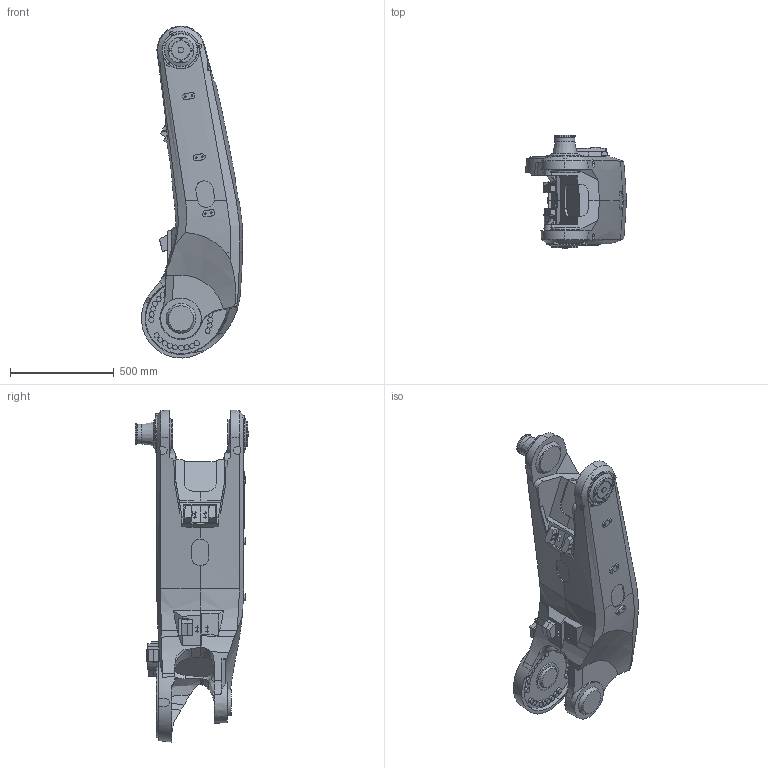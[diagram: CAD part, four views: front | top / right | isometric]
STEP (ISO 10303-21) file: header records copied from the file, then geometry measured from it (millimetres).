
FILE_DESCRIPTION (( 'STEP AP214' ), '1' );
FILE_NAME ('IRB77X0_All_OC_00_LINK02_CAD.step', '2026-01-28T10:35:20', ( '' ), ( '' ), 'SwSTEP 2.0', 'SolidWorks 2024', '' );
FILE_SCHEMA (( 'AUTOMOTIVE_DESIGN' ));
Length unit declared in the file: millimetre
Products named in the file (1): IRB77X0_All_OC_00_LINK02_CAD
Bounding box: 487.61 x 546 x 1601.75 mm (x, y, z)
Volume: 134583716.9 mm3; surface area: 2622220.7 mm2
Topology: 1 solids, 1 shells, 653 faces, 1667 edges, 1092 vertices
Faces by surface type: plane 370, cylinder 103, cone 93, bspline 62, torus 25
Full cylindrical faces by diameter (mm): 4.8 x1, 6.8 x14, 8 x4, 8.5 x3, 14 x9, 17.9 x1, 18 x1, 24.33 x27, 28 x1, 84.8 x1, 85 x1, 90 x1, 96 x1, 99 x1, 102.6 x1, 103 x1, 105 x1, 125 x1, 138 x1, 150 x1, 157 x1, 160 x1, 315 x1
Entity records: 35023 total; most frequent: CARTESIAN_POINT 13975, ORIENTED_EDGE 2956, DIRECTION 2436, EDGE_CURVE 1478, VERTEX_POINT 1024, AXIS2_PLACEMENT_3D 889, EDGE_LOOP 856, FACE_OUTER_BOUND 731
